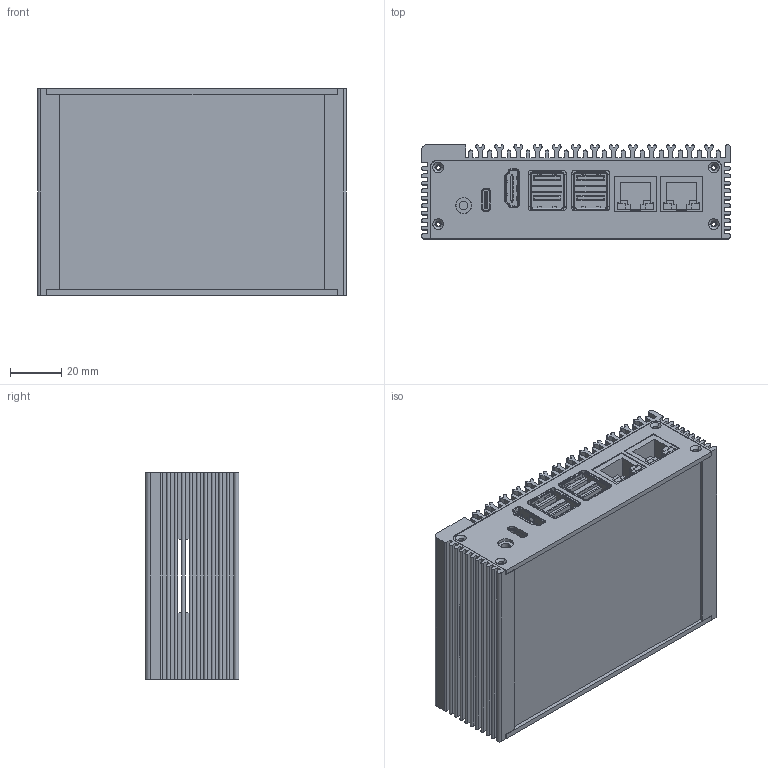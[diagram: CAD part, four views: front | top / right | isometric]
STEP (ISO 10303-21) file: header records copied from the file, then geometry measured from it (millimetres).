
FILE_DESCRIPTION((''),'2;1');
FILE_NAME('3B_ASM','2023-12-05T18:47:18',('admin'),(''),'CREO PARAMETRIC BY PTC INC, 2023072','CREO PARAMETRIC BY PTC INC, 2023072','');
FILE_SCHEMA(('CONFIG_CONTROL_DESIGN','SHAPE_APPEARANCE_LAYERS_GROUPS'));
Products named in the file (17): PRT0003_28; PRT0008_18; PRT0001_15; 000_3; 2-USB_3; 1816577_2007435-1_1; 20001_2; PRT0007_2; USB_TYPE_C_1; PRT0010_6; PRT0011_2; LED_2; 3BPCB0_ASM_33_ASM; 3B00_13; 3B00_11; 000_ASM_95_ASM; 3B_ASM
Assembly tree (18 placements, depth 4):
  3B_ASM
    000_ASM_95_ASM
      PRT0003_28
      PRT0008_18
      3BPCB0_ASM_33_ASM
        PRT0001_15
        000_3  x2
        2-USB_3  x2
        1816577_2007435-1_1
        20001_2
        PRT0007_2
        USB_TYPE_C_1
        PRT0010_6
        PRT0011_2
        LED_2
      3B00_13
      3B00_11
Bounding box: 120 x 36.5 x 80.3 mm (x, y, z)
Volume: 109550.6 mm3; surface area: 124152.2 mm2
Topology: 16 solids, 16 shells, 2855 faces, 8262 edges, 5363 vertices
Faces by surface type: plane 1965, cylinder 525, extrusion 327, cone 32, sphere 6
Entity records: 89431 total; most frequent: CARTESIAN_POINT 19763, ORIENTED_EDGE 14938, DIRECTION 12607, EDGE_CURVE 7469, VECTOR 5929, LINE 5602, VERTEX_POINT 4851, AXIS2_PLACEMENT_3D 3339
